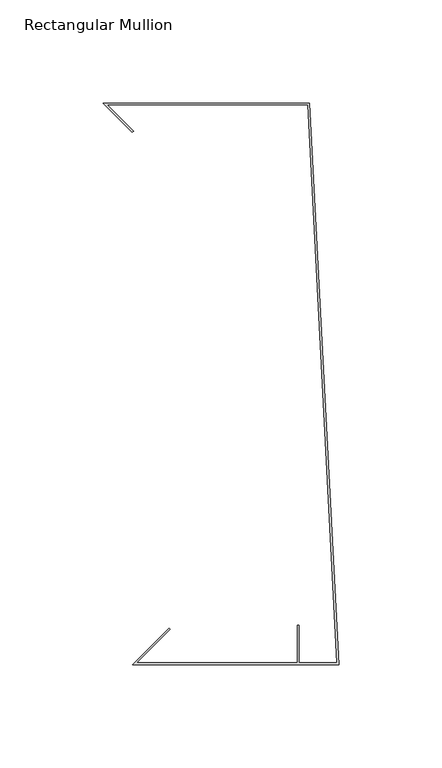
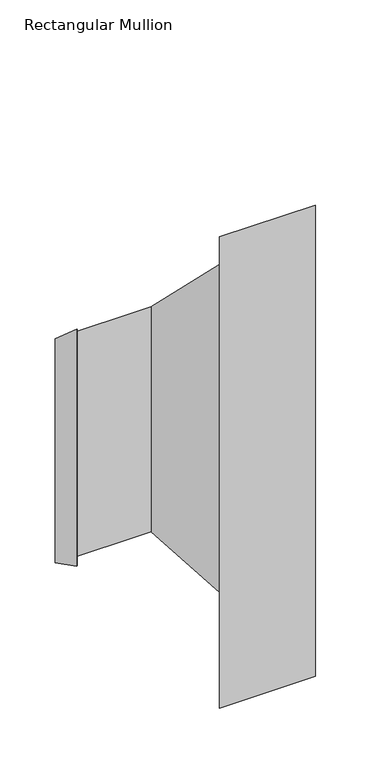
"""IFC4 building model written with IfcOpenShell, lengths in millimetres: member geometry, Rectangular Mullion : TE-V-03_01_Top parapet."""

from ifc_helpers import new_model, si_unit, origin, place, context, project, spatial, faceted_brep, source, transform, mapped, element, save


def rectangular_mullion_e84dba29(model_context):
    return source(origin(), model_context, "Body", "Brep", [
        faceted_brep([(-100.0, -19.0, -500.0000003), (-82.3223305, -1.3223305, -500.0000003), (-81.756645, -1.8880159, -500.0000003), (-98.0686292, -18.2, -500.0000003), (-20.0, -18.2, -500.0000003), (-20.0, 0.0, -500.0000003), (-19.2, 0.0, -500.0000003), (-19.2, -18.2, -500.0000003), (-0.8430241, -18.2, -500.0000003), (-15.0140876, 252.2, -500.0000003), (-112.3235451, 252.2, -500.0000003), (-99.5470949, 239.4235498, -500.0000003), (-100.1127803, 238.8578644, -500.0000003), (-114.254916, 253.0, -500.0000003), (-14.254916, 253.0, -500.0000003), (0.0, -19.0, -500.0000003), (0.0, -19.0, 19.0), (-100.0, -19.0, 19.0), (-14.254916, 253.0, -253.0), (-114.254916, 253.0, -253.0), (-100.1127803, 238.8578644, -238.8578644), (-99.5470949, 239.4235498, -239.4235498), (-112.3235451, 252.2, -252.2), (-15.0140876, 252.2, -252.2), (-0.8430241, -18.2, 18.2), (-19.2, -18.2, 18.2), (-19.2, 0.0, 0.0), (-20.0, 0.0, 0.0), (-20.0, -18.2, 18.2), (-98.0686292, -18.2, 18.2), (-81.756645, -1.8880159, 1.8880159), (-82.3223305, -1.3223305, 1.3223305)], [[[0, 1, 2, 3, 4, 5, 6, 7, 8, 9, 10, 11, 12, 13, 14, 15]], [[16, 17, 0, 15]], [[18, 16, 15, 14]], [[19, 18, 14, 13]], [[20, 19, 13, 12]], [[21, 20, 12, 11]], [[22, 21, 11, 10]], [[23, 22, 10, 9]], [[24, 23, 9, 8]], [[25, 24, 8, 7]], [[26, 25, 7, 6]], [[27, 26, 6, 5]], [[28, 27, 5, 4]], [[29, 28, 4, 3]], [[30, 29, 3, 2]], [[31, 30, 2, 1]], [[17, 31, 1, 0]], [[17, 16, 18, 19, 20, 21, 22, 23, 24, 25, 26, 27, 28, 29, 30, 31]]]),
    ])


if __name__ == "__main__":
    model = new_model("IFC4")
    model_context = context("Model", 3, world=origin())
    ifc_project = project(units=[si_unit("LENGTHUNIT", "METRE", prefix="MILLI")], contexts=[model_context])
    site = spatial("IfcSite", under=ifc_project)
    building = spatial("IfcBuilding", under=site)
    placement = place(None, origin())
    rectangular_mullion_shape = rectangular_mullion_e84dba29(model_context)
    element("IfcMember", 1, ObjectType="Rectangular Mullion : TE-V-03_01_Top parapet", at=placement, inside=building, context=model_context, shape_type="MappedRepresentation", body=[
        mapped(rectangular_mullion_shape, transform((0.0, 0.0, 0.0), x_axis=(1.0, 0.0, 0.0), y_axis=(0.0, 1.0, 0.0), z_axis=(0.0, 0.0, 1.0))),
    ])
    save(model, "model.ifc")
